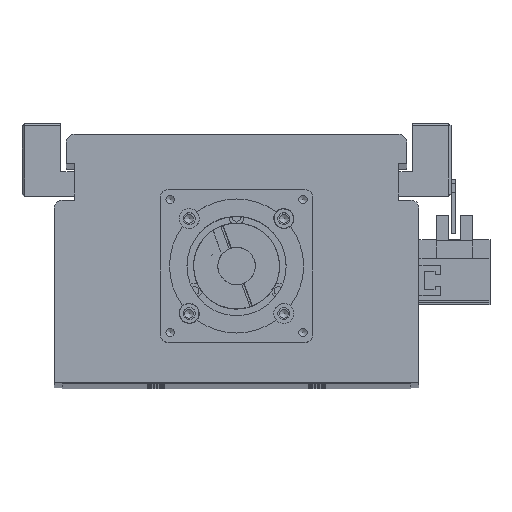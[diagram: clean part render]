
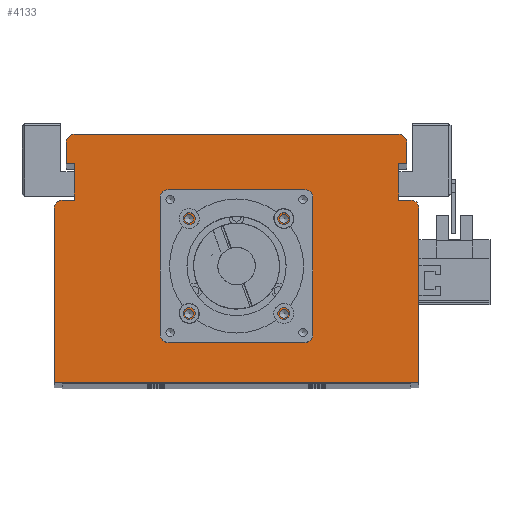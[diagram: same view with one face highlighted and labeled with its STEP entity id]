
A CAD part, top view. The second image highlights one B-rep face of the part: STEP entity #4133.
In plain terms, the highlighted planar face has unit normal (0, 0, 1).
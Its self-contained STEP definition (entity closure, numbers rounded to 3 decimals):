
#2691=CARTESIAN_POINT('',(19.321,61.5,1095.));
#2692=VERTEX_POINT('',#2691);
#2693=CARTESIAN_POINT('',(17.7,61.5,1095.));
#2694=DIRECTION('',(0.0,0.0,-1.0));
#2695=DIRECTION('',(1.0,0.0,0.0));
#2696=AXIS2_PLACEMENT_3D('',#2693,#2694,#2695);
#2697=CIRCLE('',#2696,1.621);
#2698=EDGE_CURVE('',#2692,#2692,#2697,.T.);
#2770=CARTESIAN_POINT('',(19.321,26.1,1095.));
#2771=VERTEX_POINT('',#2770);
#2772=CARTESIAN_POINT('',(17.7,26.1,1095.));
#2773=DIRECTION('',(0.0,0.0,-1.0));
#2774=DIRECTION('',(1.0,0.0,0.0));
#2775=AXIS2_PLACEMENT_3D('',#2772,#2773,#2774);
#2776=CIRCLE('',#2775,1.621);
#2777=EDGE_CURVE('',#2771,#2771,#2776,.T.);
#2849=CARTESIAN_POINT('',(-16.079,26.1,1095.));
#2850=VERTEX_POINT('',#2849);
#2851=CARTESIAN_POINT('',(-17.7,26.1,1095.));
#2852=DIRECTION('',(0.0,0.0,-1.0));
#2853=DIRECTION('',(1.0,0.0,0.0));
#2854=AXIS2_PLACEMENT_3D('',#2851,#2852,#2853);
#2855=CIRCLE('',#2854,1.621);
#2856=EDGE_CURVE('',#2850,#2850,#2855,.T.);
#2928=CARTESIAN_POINT('',(-16.079,61.5,1095.));
#2929=VERTEX_POINT('',#2928);
#2930=CARTESIAN_POINT('',(-17.7,61.5,1095.));
#2931=DIRECTION('',(0.0,0.0,-1.0));
#2932=DIRECTION('',(1.0,0.0,0.0));
#2933=AXIS2_PLACEMENT_3D('',#2930,#2931,#2932);
#2934=CIRCLE('',#2933,1.621);
#2935=EDGE_CURVE('',#2929,#2929,#2934,.T.);
#2969=CARTESIAN_POINT('',(26.5,43.8,1095.));
#2970=VERTEX_POINT('',#2969);
#2971=CARTESIAN_POINT('',(24.5,43.8,1095.));
#2972=DIRECTION('',(0.0,0.0,-1.0));
#2973=DIRECTION('',(1.0,0.0,0.0));
#2974=AXIS2_PLACEMENT_3D('',#2971,#2972,#2973);
#2975=CIRCLE('',#2974,2.0);
#2976=EDGE_CURVE('',#2970,#2970,#2975,.T.);
#3018=CARTESIAN_POINT('',(-22.5,43.8,1095.));
#3019=VERTEX_POINT('',#3018);
#3020=CARTESIAN_POINT('',(-24.5,43.8,1095.));
#3021=DIRECTION('',(0.0,0.0,-1.0));
#3022=DIRECTION('',(1.0,0.0,0.0));
#3023=AXIS2_PLACEMENT_3D('',#3020,#3021,#3022);
#3024=CIRCLE('',#3023,2.0);
#3025=EDGE_CURVE('',#3019,#3019,#3024,.T.);
#3949=CARTESIAN_POINT('',(21.05,43.8,1095.));
#3950=VERTEX_POINT('',#3949);
#3951=CARTESIAN_POINT('',(0.0,43.8,1095.));
#3952=DIRECTION('',(0.0,0.0,-1.0));
#3953=DIRECTION('',(-1.0,0.0,0.0));
#3954=AXIS2_PLACEMENT_3D('',#3951,#3952,#3953);
#3955=CIRCLE('',#3954,21.05);
#3956=EDGE_CURVE('',#3950,#3950,#3955,.T.);
#3973=CARTESIAN_POINT('',(0.,29.533,1095.));
#3974=DIRECTION('',(0.0,0.0,1.0));
#3975=DIRECTION('',(1.0,0.0,0.0));
#3976=AXIS2_PLACEMENT_3D('',#3973,#3974,#3975);
#3977=PLANE('',#3976);
#3978=CARTESIAN_POINT('',(-65.,68.5,1095.));
#3979=VERTEX_POINT('',#3978);
#3980=CARTESIAN_POINT('',(-60.5,68.5,1095.0));
#3981=VERTEX_POINT('',#3980);
#3982=CARTESIAN_POINT('',(-65.,68.5,1095.));
#3983=DIRECTION('',(1.0,0.0,0.0));
#3984=VECTOR('',#3983,4.5);
#3985=LINE('',#3982,#3984);
#3986=EDGE_CURVE('',#3979,#3981,#3985,.T.);
#3987=ORIENTED_EDGE('',*,*,#3986,.F.);
#3988=CARTESIAN_POINT('',(-68.,65.5,1095.));
#3989=VERTEX_POINT('',#3988);
#3990=CARTESIAN_POINT('',(-65.,65.5,1095.0));
#3991=DIRECTION('',(0.0,0.0,-1.0));
#3992=DIRECTION('',(0.0,1.0,0.0));
#3993=AXIS2_PLACEMENT_3D('',#3990,#3991,#3992);
#3994=CIRCLE('',#3993,3.);
#3995=EDGE_CURVE('',#3989,#3979,#3994,.T.);
#3996=ORIENTED_EDGE('',*,*,#3995,.F.);
#3997=CARTESIAN_POINT('',(-68.0,0.5,1095.));
#3998=VERTEX_POINT('',#3997);
#3999=CARTESIAN_POINT('',(-68.0,0.5,1095.));
#4000=DIRECTION('',(0.0,1.0,0.0));
#4001=VECTOR('',#4000,65.0);
#4002=LINE('',#3999,#4001);
#4003=EDGE_CURVE('',#3998,#3989,#4002,.T.);
#4004=ORIENTED_EDGE('',*,*,#4003,.F.);
#4005=CARTESIAN_POINT('',(68.0,0.5,1095.));
#4006=VERTEX_POINT('',#4005);
#4007=CARTESIAN_POINT('',(68.0,0.5,1095.));
#4008=DIRECTION('',(-1.0,0.0,0.0));
#4009=VECTOR('',#4008,136.0);
#4010=LINE('',#4007,#4009);
#4011=EDGE_CURVE('',#4006,#3998,#4010,.T.);
#4012=ORIENTED_EDGE('',*,*,#4011,.F.);
#4013=CARTESIAN_POINT('',(68.0,65.5,1095.));
#4014=VERTEX_POINT('',#4013);
#4015=CARTESIAN_POINT('',(68.0,65.5,1095.));
#4016=DIRECTION('',(0.0,-1.0,0.0));
#4017=VECTOR('',#4016,65.0);
#4018=LINE('',#4015,#4017);
#4019=EDGE_CURVE('',#4014,#4006,#4018,.T.);
#4020=ORIENTED_EDGE('',*,*,#4019,.F.);
#4021=CARTESIAN_POINT('',(65.,68.5,1095.));
#4022=VERTEX_POINT('',#4021);
#4023=CARTESIAN_POINT('',(65.,65.5,1095.0));
#4024=DIRECTION('',(0.0,0.0,-1.0));
#4025=DIRECTION('',(1.0,0.0,0.0));
#4026=AXIS2_PLACEMENT_3D('',#4023,#4024,#4025);
#4027=CIRCLE('',#4026,3.);
#4028=EDGE_CURVE('',#4022,#4014,#4027,.T.);
#4029=ORIENTED_EDGE('',*,*,#4028,.F.);
#4030=CARTESIAN_POINT('',(60.5,68.5,1095.0));
#4031=VERTEX_POINT('',#4030);
#4032=CARTESIAN_POINT('',(60.5,68.5,1095.0));
#4033=DIRECTION('',(1.0,0.0,0.0));
#4034=VECTOR('',#4033,4.5);
#4035=LINE('',#4032,#4034);
#4036=EDGE_CURVE('',#4031,#4022,#4035,.T.);
#4037=ORIENTED_EDGE('',*,*,#4036,.F.);
#4038=CARTESIAN_POINT('',(60.5,82.,1095.));
#4039=VERTEX_POINT('',#4038);
#4040=CARTESIAN_POINT('',(60.5,82.,1095.));
#4041=DIRECTION('',(0.0,-1.0,0.0));
#4042=VECTOR('',#4041,13.5);
#4043=LINE('',#4040,#4042);
#4044=EDGE_CURVE('',#4039,#4031,#4043,.T.);
#4045=ORIENTED_EDGE('',*,*,#4044,.F.);
#4046=CARTESIAN_POINT('',(63.5,82.,1095.));
#4047=VERTEX_POINT('',#4046);
#4048=CARTESIAN_POINT('',(63.5,82.,1095.));
#4049=DIRECTION('',(-1.0,0.0,0.0));
#4050=VECTOR('',#4049,3.0);
#4051=LINE('',#4048,#4050);
#4052=EDGE_CURVE('',#4047,#4039,#4051,.T.);
#4053=ORIENTED_EDGE('',*,*,#4052,.F.);
#4054=CARTESIAN_POINT('',(63.5,90.0,1095.));
#4055=VERTEX_POINT('',#4054);
#4056=CARTESIAN_POINT('',(63.5,90.0,1095.));
#4057=DIRECTION('',(0.0,-1.0,0.0));
#4058=VECTOR('',#4057,8.);
#4059=LINE('',#4056,#4058);
#4060=EDGE_CURVE('',#4055,#4047,#4059,.T.);
#4061=ORIENTED_EDGE('',*,*,#4060,.F.);
#4062=CARTESIAN_POINT('',(60.5,93.,1095.));
#4063=VERTEX_POINT('',#4062);
#4064=CARTESIAN_POINT('',(60.5,90.0,1095.0));
#4065=DIRECTION('',(0.0,0.0,-1.0));
#4066=DIRECTION('',(1.0,0.0,0.0));
#4067=AXIS2_PLACEMENT_3D('',#4064,#4065,#4066);
#4068=CIRCLE('',#4067,3.);
#4069=EDGE_CURVE('',#4063,#4055,#4068,.T.);
#4070=ORIENTED_EDGE('',*,*,#4069,.F.);
#4071=CARTESIAN_POINT('',(-60.5,93.0,1095.));
#4072=VERTEX_POINT('',#4071);
#4073=CARTESIAN_POINT('',(-60.5,93.0,1095.));
#4074=DIRECTION('',(1.0,0.0,0.0));
#4075=VECTOR('',#4074,121.0);
#4076=LINE('',#4073,#4075);
#4077=EDGE_CURVE('',#4072,#4063,#4076,.T.);
#4078=ORIENTED_EDGE('',*,*,#4077,.F.);
#4079=CARTESIAN_POINT('',(-63.5,90.0,1095.));
#4080=VERTEX_POINT('',#4079);
#4081=CARTESIAN_POINT('',(-60.5,90.0,1095.0));
#4082=DIRECTION('',(0.0,0.0,-1.0));
#4083=DIRECTION('',(0.0,1.0,0.0));
#4084=AXIS2_PLACEMENT_3D('',#4081,#4082,#4083);
#4085=CIRCLE('',#4084,3.);
#4086=EDGE_CURVE('',#4080,#4072,#4085,.T.);
#4087=ORIENTED_EDGE('',*,*,#4086,.F.);
#4088=CARTESIAN_POINT('',(-63.5,82.,1095.));
#4089=VERTEX_POINT('',#4088);
#4090=CARTESIAN_POINT('',(-63.5,82.,1095.));
#4091=DIRECTION('',(0.0,1.0,0.0));
#4092=VECTOR('',#4091,8.);
#4093=LINE('',#4090,#4092);
#4094=EDGE_CURVE('',#4089,#4080,#4093,.T.);
#4095=ORIENTED_EDGE('',*,*,#4094,.F.);
#4096=CARTESIAN_POINT('',(-60.5,82.,1095.));
#4097=VERTEX_POINT('',#4096);
#4098=CARTESIAN_POINT('',(-60.5,82.,1095.));
#4099=DIRECTION('',(-1.0,0.0,0.0));
#4100=VECTOR('',#4099,3.);
#4101=LINE('',#4098,#4100);
#4102=EDGE_CURVE('',#4097,#4089,#4101,.T.);
#4103=ORIENTED_EDGE('',*,*,#4102,.F.);
#4104=CARTESIAN_POINT('',(-60.5,68.5,1095.0));
#4105=DIRECTION('',(0.0,1.0,0.0));
#4106=VECTOR('',#4105,13.5);
#4107=LINE('',#4104,#4106);
#4108=EDGE_CURVE('',#3981,#4097,#4107,.T.);
#4109=ORIENTED_EDGE('',*,*,#4108,.F.);
#4110=EDGE_LOOP('',(#3987,#3996,#4004,#4012,#4020,#4029,#4037,#4045,#4053,#4061,#4070,#4078,#4087,#4095,#4103,#4109));
#4111=FACE_OUTER_BOUND('',#4110,.T.);
#4112=ORIENTED_EDGE('',*,*,#2698,.T.);
#4113=EDGE_LOOP('',(#4112));
#4114=FACE_BOUND('',#4113,.T.);
#4115=ORIENTED_EDGE('',*,*,#2777,.T.);
#4116=EDGE_LOOP('',(#4115));
#4117=FACE_BOUND('',#4116,.T.);
#4118=ORIENTED_EDGE('',*,*,#2856,.T.);
#4119=EDGE_LOOP('',(#4118));
#4120=FACE_BOUND('',#4119,.T.);
#4121=ORIENTED_EDGE('',*,*,#2935,.T.);
#4122=EDGE_LOOP('',(#4121));
#4123=FACE_BOUND('',#4122,.T.);
#4124=ORIENTED_EDGE('',*,*,#2976,.T.);
#4125=EDGE_LOOP('',(#4124));
#4126=FACE_BOUND('',#4125,.T.);
#4127=ORIENTED_EDGE('',*,*,#3025,.T.);
#4128=EDGE_LOOP('',(#4127));
#4129=FACE_BOUND('',#4128,.T.);
#4130=ORIENTED_EDGE('',*,*,#3956,.T.);
#4131=EDGE_LOOP('',(#4130));
#4132=FACE_BOUND('',#4131,.T.);
#4133=ADVANCED_FACE('',(#4111,#4114,#4117,#4120,#4123,#4126,#4129,#4132),#3977,.T.);
